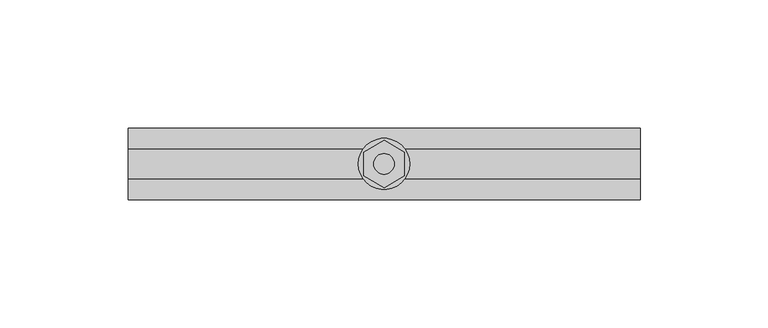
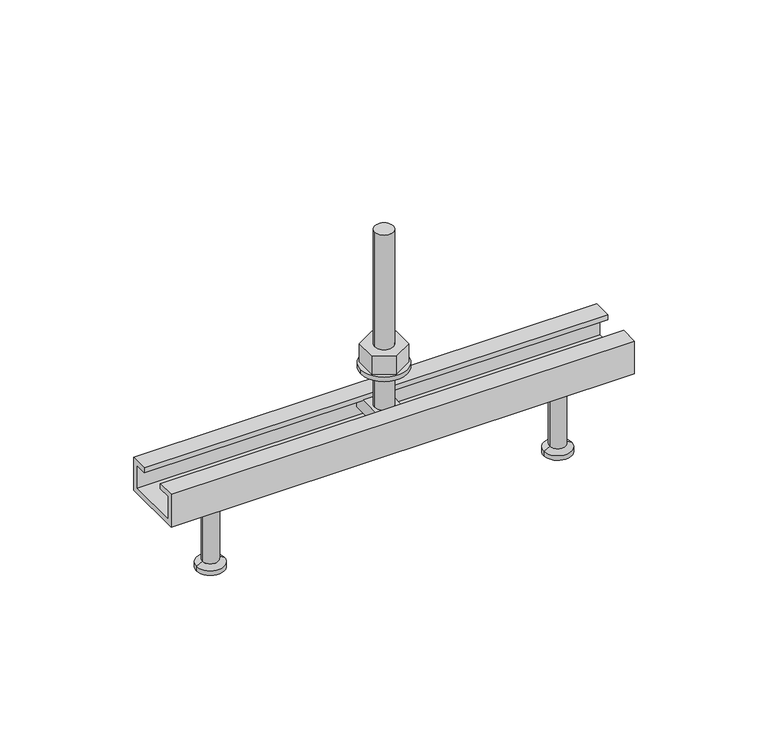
"""IFC4 building model written with IfcOpenShell, lengths in millimetres: fastener geometry, JTA-K JORDAHL® AnchorChannels : JTA-K L=200 mm."""

from ifc_helpers import new_model, si_unit, point, frame, frame_2d, origin, place, context, project, spatial, polyline, circle_curve, trimmed, segment, composite_curve, outline, extrude, source, transform, mapped, element, save
from ifc_brep_helpers import plane_surface, cylinder_surface, revolved_surface, advanced_brep


def fastener_d96db2c9(model_context):
    return source(origin(), model_context, "Body", "SolidModel", [
        extrude(outline(polyline([(100.0, 9.2376043), (108.0, 4.6188022), (108.0, -4.6188022), (100.0, -9.2376043), (92.0, -4.6188022), (92.0, 4.6188022), (100.0, 9.2376043)]), holes=[composite_curve([segment(trimmed(circle_curve(frame_2d((100.0, 0.0)), 4.0), [point((96.0, 0.0))], [point((104.0, 0.0))], True, "CARTESIAN"), True, "CONTINUOUS"), segment(trimmed(circle_curve(frame_2d((100.0, 0.0)), 4.0), [point((104.0, 0.0))], [point((96.0, 0.0))], True, "CARTESIAN"), True, "CONTINUOUS")], self_intersect=False)]), frame((0.0, 0.0, 17.0), z_axis=(0.0, 0.0, 1.0), x_axis=(1.0, 0.0, 0.0)), (0.0, 0.0, 1.0), 8.4),
        extrude(outline(composite_curve([segment(trimmed(circle_curve(frame_2d((100.0, 0.0)), 10.0), [point((90.0, 0.0))], [point((110.0, 0.0))], False, "CARTESIAN"), True, "CONTINUOUS"), segment(trimmed(circle_curve(frame_2d((100.0, 0.0)), 10.0), [point((110.0, 0.0))], [point((90.0, 0.0))], False, "CARTESIAN"), True, "CONTINUOUS")], self_intersect=False), holes=[composite_curve([segment(trimmed(circle_curve(frame_2d((100.0, 0.0)), 5.25), [point((94.75, 0.0))], [point((105.25, 0.0))], True, "CARTESIAN"), True, "CONTINUOUS"), segment(trimmed(circle_curve(frame_2d((100.0, 0.0)), 5.25), [point((105.25, 0.0))], [point((94.75, 0.0))], True, "CARTESIAN"), True, "CONTINUOUS")], self_intersect=False)]), frame((0.0, 0.0, 15.0), z_axis=(0.0, 0.0, 1.0), x_axis=(1.0, 0.0, 0.0)), (0.0, 0.0, 1.0), 2.0),
        advanced_brep(
        [(105.5, 11.0, -2.3), (105.5, -11.0, -2.3), (105.5, -11.0, -8.3), (105.5, 11.0, -8.3), (94.5, 11.0, -2.3), (94.5, 11.0, -8.3), (94.5, -11.0, -8.3), (94.5, -11.0, -2.3), (104.0, 0.0, -2.3), (96.0, 0.0, -2.3), (96.0, 0.0, 77.7), (104.0, 0.0, 77.7)],
        [
            (0, 1),
            (1, 2),
            (2, 3),
            (3, 0),
            (4, 5),
            (5, 6),
            (6, 7),
            (7, 4),
            (0, 4),
            (7, 1),
            (8, 9, circle_curve(frame((100.0, 0.0, -2.3), z_axis=(0.0, 0.0, -1.0), x_axis=(1.0, 0.0, 0.0)), 4.0)),
            (9, 8, circle_curve(frame((100.0, 0.0, -2.3), z_axis=(0.0, 0.0, -1.0), x_axis=(1.0, 0.0, 0.0)), 4.0)),
            (6, 2),
            (5, 3),
            (10, 11, circle_curve(frame((100.0, 0.0, 77.7), z_axis=(0.0, 0.0, 1.0), x_axis=(1.0, 0.0, 0.0)), 4.0)),
            (11, 10, circle_curve(frame((100.0, 0.0, 77.7), z_axis=(0.0, 0.0, 1.0), x_axis=(1.0, 0.0, 0.0)), 4.0)),
            (10, 9),
            (8, 11),
        ],
        [
            plane_surface(frame((105.5, -11.0, -2.3), z_axis=(1.0, 0.0, 0.0), x_axis=(0.0, -1.0, 0.0))),
            plane_surface(frame((94.5, -11.0, -2.3), z_axis=(-1.0, 0.0, 0.0), x_axis=(0.0, 1.0, 0.0))),
            plane_surface(frame((105.5, 11.0, -2.3), z_axis=(0.0, 0.0, 1.0), x_axis=(-1.0, 0.0, 0.0))),
            plane_surface(frame((105.5, -11.0, -2.3), z_axis=(0.0, -1.0, 0.0), x_axis=(-1.0, 0.0, 0.0))),
            plane_surface(frame((105.5, -11.0, -8.3), z_axis=(0.0, 0.0, -1.0), x_axis=(-1.0, 0.0, 0.0))),
            plane_surface(frame((105.5, 11.0, -8.3), z_axis=(0.0, 1.0, 0.0), x_axis=(-1.0, 0.0, 0.0))),
            plane_surface(frame((104.0, 0.0, 77.7), z_axis=(0.0, 0.0, 1.0), x_axis=(0.0, 1.0, 0.0))),
            cylinder_surface(frame((100.0, 0.0, -2.3), z_axis=(0.0, 0.0, 1.0), x_axis=(1.0, 0.0, 0.0)), 4.0),
        ],
        [
            (0, [[1, 2, 3, 4]]),
            (1, [[5, 6, 7, 8]]),
            (2, [[-1, 9, -8, 10], [11, 12]]),
            (3, [[-2, -10, -7, 13]]),
            (4, [[-3, -13, -6, 14]]),
            (5, [[-4, -14, -5, -9]]),
            (6, [[15, 16]]),
            (7, [[-15, 17, -11, 18]]),
            (7, [[-16, -18, -12, -17]]),
        ],
    ),
        advanced_brep(
        [(175.0, 0.0, -15.0), (185.5, 0.0, -15.0), (164.5, 0.0, -15.0), (169.0, 0.0, -50.0), (181.0, 0.0, -50.0), (175.0, 0.0, -50.0), (169.0, 0.0, -48.0), (181.0, 0.0, -48.0), (171.5, 0.0, -46.5566243), (178.5, 0.0, -46.5566243), (171.5, 0.0, -17.5), (178.5, 0.0, -17.5)],
        [
            (0, 1),
            (1, 2, circle_curve(frame((175.0, 0.0, -15.0), z_axis=(0.0, 0.0, 1.0), x_axis=(1.0, 0.0, 0.0)), 10.5)),
            (2, 0),
            (2, 1, circle_curve(frame((175.0, 0.0, -15.0), z_axis=(0.0, 0.0, 1.0), x_axis=(1.0, 0.0, 0.0)), 10.5)),
            (3, 4, circle_curve(frame((175.0, 0.0, -50.0), z_axis=(0.0, 0.0, -1.0), x_axis=(1.0, 0.0, 0.0)), 6.0)),
            (4, 5),
            (5, 3),
            (4, 3, circle_curve(frame((175.0, 0.0, -50.0), z_axis=(0.0, 0.0, -1.0), x_axis=(1.0, 0.0, 0.0)), 6.0)),
            (6, 7, circle_curve(frame((175.0, 0.0, -48.0), z_axis=(0.0, 0.0, -1.0), x_axis=(1.0, 0.0, 0.0)), 6.0)),
            (7, 4),
            (3, 6),
            (7, 6, circle_curve(frame((175.0, 0.0, -48.0), z_axis=(0.0, 0.0, -1.0), x_axis=(1.0, 0.0, 0.0)), 6.0)),
            (8, 9, circle_curve(frame((175.0, 0.0, -46.5566243), z_axis=(0.0, 0.0, -1.0), x_axis=(1.0, 0.0, 0.0)), 3.5)),
            (9, 7),
            (6, 8),
            (9, 8, circle_curve(frame((175.0, 0.0, -46.5566243), z_axis=(0.0, 0.0, -1.0), x_axis=(1.0, 0.0, 0.0)), 3.5)),
            (10, 11, circle_curve(frame((175.0, 0.0, -17.5), z_axis=(0.0, 0.0, -1.0), x_axis=(1.0, 0.0, 0.0)), 3.5)),
            (11, 9),
            (8, 10),
            (11, 10, circle_curve(frame((175.0, 0.0, -17.5), z_axis=(0.0, 0.0, -1.0), x_axis=(1.0, 0.0, 0.0)), 3.5)),
            (1, 11),
            (10, 2),
        ],
        [
            plane_surface(frame((175.0, 0.0, -15.0), z_axis=(0.0, 0.0, 1.0), x_axis=(1.0, 0.0, 0.0))),
            plane_surface(frame((175.0, 0.0, -50.0), z_axis=(0.0, 0.0, -1.0), x_axis=(1.0, 0.0, 0.0))),
            cylinder_surface(frame((175.0, 0.0, 2249.3150031), z_axis=(0.0, 0.0, 1.0), x_axis=(1.0, 0.0, 0.0)), 6.0),
            revolved_surface(polyline([(181.0, 0.0, -48.0), (178.5, 0.0, -46.5566243)]), (175.0, 0.0, 2249.3150031), (0.0, 0.0, 1.0)),
            cylinder_surface(frame((175.0, 0.0, 2249.3150031), z_axis=(0.0, 0.0, 1.0), x_axis=(1.0, 0.0, 0.0)), 3.5),
            revolved_surface(polyline([(178.5, 0.0, -17.5), (185.5, 0.0, -15.0)]), (175.0, 0.0, 2249.3150031), (0.0, 0.0, 1.0)),
        ],
        [
            (0, [[1, 2, 3]]),
            (0, [[-3, 4, -1]]),
            (1, [[5, 6, 7]]),
            (1, [[8, -7, -6]]),
            (2, [[9, 10, -5, 11]]),
            (2, [[12, -11, -8, -10]]),
            (3, [[13, 14, -9, 15]]),
            (3, [[16, -15, -12, -14]]),
            (4, [[17, 18, -13, 19]]),
            (4, [[20, -19, -16, -18]]),
            (5, [[-2, 21, -17, 22]]),
            (5, [[-4, -22, -20, -21]]),
        ],
    ),
        advanced_brep(
        [(25.0, 0.0, -15.0), (35.5, 0.0, -15.0), (14.5, 0.0, -15.0), (19.0, 0.0, -50.0), (31.0, 0.0, -50.0), (25.0, 0.0, -50.0), (19.0, 0.0, -48.0), (31.0, 0.0, -48.0), (21.5, 0.0, -46.5566243), (28.5, 0.0, -46.5566243), (21.5, 0.0, -17.5), (28.5, 0.0, -17.5)],
        [
            (0, 1),
            (1, 2, circle_curve(frame((25.0, 0.0, -15.0), z_axis=(0.0, 0.0, 1.0), x_axis=(1.0, 0.0, 0.0)), 10.5)),
            (2, 0),
            (2, 1, circle_curve(frame((25.0, 0.0, -15.0), z_axis=(0.0, 0.0, 1.0), x_axis=(1.0, 0.0, 0.0)), 10.5)),
            (3, 4, circle_curve(frame((25.0, 0.0, -50.0), z_axis=(0.0, 0.0, -1.0), x_axis=(1.0, 0.0, 0.0)), 6.0)),
            (4, 5),
            (5, 3),
            (4, 3, circle_curve(frame((25.0, 0.0, -50.0), z_axis=(0.0, 0.0, -1.0), x_axis=(1.0, 0.0, 0.0)), 6.0)),
            (6, 7, circle_curve(frame((25.0, 0.0, -48.0), z_axis=(0.0, 0.0, -1.0), x_axis=(1.0, 0.0, 0.0)), 6.0)),
            (7, 4),
            (3, 6),
            (7, 6, circle_curve(frame((25.0, 0.0, -48.0), z_axis=(0.0, 0.0, -1.0), x_axis=(1.0, 0.0, 0.0)), 6.0)),
            (8, 9, circle_curve(frame((25.0, 0.0, -46.5566243), z_axis=(0.0, 0.0, -1.0), x_axis=(1.0, 0.0, 0.0)), 3.5)),
            (9, 7),
            (6, 8),
            (9, 8, circle_curve(frame((25.0, 0.0, -46.5566243), z_axis=(0.0, 0.0, -1.0), x_axis=(1.0, 0.0, 0.0)), 3.5)),
            (10, 11, circle_curve(frame((25.0, 0.0, -17.5), z_axis=(0.0, 0.0, -1.0), x_axis=(1.0, 0.0, 0.0)), 3.5)),
            (11, 9),
            (8, 10),
            (11, 10, circle_curve(frame((25.0, 0.0, -17.5), z_axis=(0.0, 0.0, -1.0), x_axis=(1.0, 0.0, 0.0)), 3.5)),
            (1, 11),
            (10, 2),
        ],
        [
            plane_surface(frame((25.0, 0.0, -15.0), z_axis=(0.0, 0.0, 1.0), x_axis=(1.0, 0.0, 0.0))),
            plane_surface(frame((25.0, 0.0, -50.0), z_axis=(0.0, 0.0, -1.0), x_axis=(1.0, 0.0, 0.0))),
            cylinder_surface(frame((25.0, 0.0, 2249.3150031), z_axis=(0.0, 0.0, 1.0), x_axis=(1.0, 0.0, 0.0)), 6.0),
            revolved_surface(polyline([(31.0, 0.0, -48.0), (28.5, 0.0, -46.5566243)]), (25.0, 0.0, 2249.3150031), (0.0, 0.0, 1.0)),
            cylinder_surface(frame((25.0, 0.0, 2249.3150031), z_axis=(0.0, 0.0, 1.0), x_axis=(1.0, 0.0, 0.0)), 3.5),
            revolved_surface(polyline([(28.5, 0.0, -17.5), (35.5, 0.0, -15.0)]), (25.0, 0.0, 2249.3150031), (0.0, 0.0, 1.0)),
        ],
        [
            (0, [[1, 2, 3]]),
            (0, [[-3, 4, -1]]),
            (1, [[5, 6, 7]]),
            (1, [[8, -7, -6]]),
            (2, [[9, 10, -5, 11]]),
            (2, [[12, -11, -8, -10]]),
            (3, [[13, 14, -9, 15]]),
            (3, [[16, -15, -12, -14]]),
            (4, [[17, 18, -13, 19]]),
            (4, [[20, -19, -16, -18]]),
            (5, [[-2, 21, -17, 22]]),
            (5, [[-4, -22, -20, -21]]),
        ],
    ),
        extrude(outline(polyline([(14.0, 0.0), (14.0, -15.0), (-14.0, -15.0), (-14.0, 0.0), (-6.0, 0.0), (-6.0, -2.3), (-11.7, -2.3), (-11.7, -12.7), (11.7, -12.7), (11.7, -2.3), (6.0, -2.3), (6.0, 0.0), (14.0, 0.0)])), frame((0.0, 0.0, 0.0), z_axis=(1.0, 0.0, 0.0), x_axis=(0.0, 1.0, 0.0)), (0.0, 0.0, 1.0), 200.0),
    ])


if __name__ == "__main__":
    model = new_model("IFC4")
    model_context = context("Model", 3, world=origin())
    ifc_project = project(units=[si_unit("LENGTHUNIT", "METRE", prefix="MILLI")], contexts=[model_context])
    site = spatial("IfcSite", under=ifc_project)
    building = spatial("IfcBuilding", under=site)
    placement = place(None, origin())
    fastener_shape = fastener_d96db2c9(model_context)
    element("IfcFastener", 1, ObjectType="JTA-K JORDAHL® AnchorChannels : JTA-K L=200 mm", at=placement, inside=building, context=model_context, shape_type="MappedRepresentation", body=[
        mapped(fastener_shape, transform((0.0, 0.0, 0.0), x_axis=(1.0, 0.0, 0.0), y_axis=(0.0, 1.0, 0.0), z_axis=(0.0, 0.0, 1.0))),
    ])
    save(model, "model.ifc")
